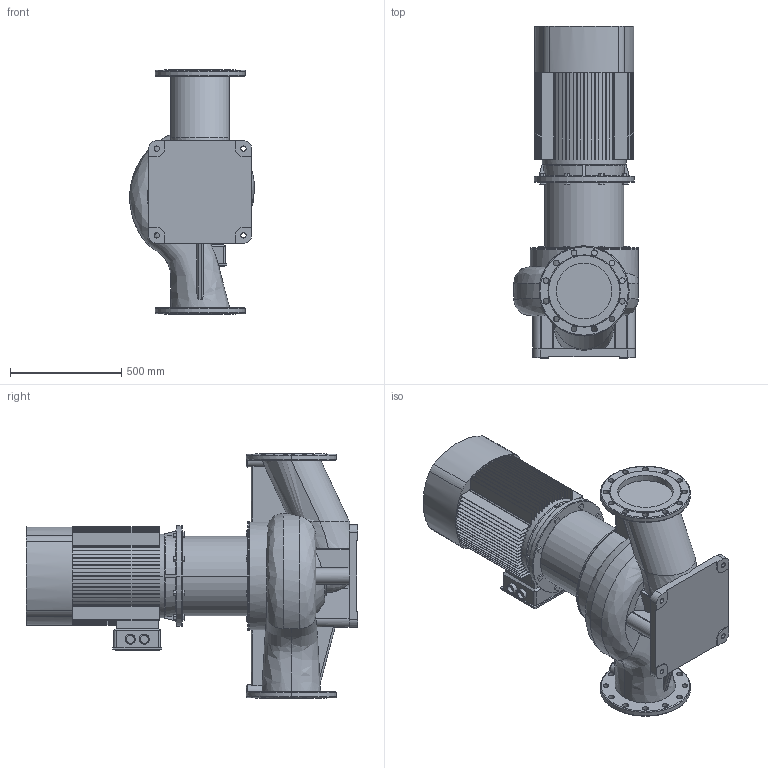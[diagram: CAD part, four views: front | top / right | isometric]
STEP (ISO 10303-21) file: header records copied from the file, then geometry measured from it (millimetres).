
FILE_DESCRIPTION (( 'STEP AP203' ), '1' );
FILE_NAME ('TD250-22_4.STEP', '2022-05-02T18:05:37', ( '' ), ( '' ), 'SwSTEP 2.0', 'SolidWorks 2019', '' );
FILE_SCHEMA (( 'CONFIG_CONTROL_DESIGN' ));
Length unit declared in the file: millimetre
Products named in the file (4): ED_B5_YE2-225M-4 (45); Fon_250_TD250-22_4; TD250-22_4; Pr_ch 250_TD250-22_4
Assembly tree (3 placements, depth 2):
  TD250-22_4
    Pr_ch 250_TD250-22_4
    Fon_250_TD250-22_4
    ED_B5_YE2-225M-4 (45)
Bounding box: 560.93 x 1492 x 1100 mm (x, y, z)
Volume: 222505719.1 mm3; surface area: 7059575.4 mm2
Topology: 5 solids, 7 shells, 817 faces, 2247 edges, 1490 vertices
Faces by surface type: plane 558, cylinder 187, torus 34, bspline 21, cone 17
Entity records: 35438 total; most frequent: CARTESIAN_POINT 13741, ORIENTED_EDGE 4494, DIRECTION 4415, EDGE_CURVE 2247, AXIS2_PLACEMENT_3D 1515, VERTEX_POINT 1490, LINE 1385, VECTOR 1385
